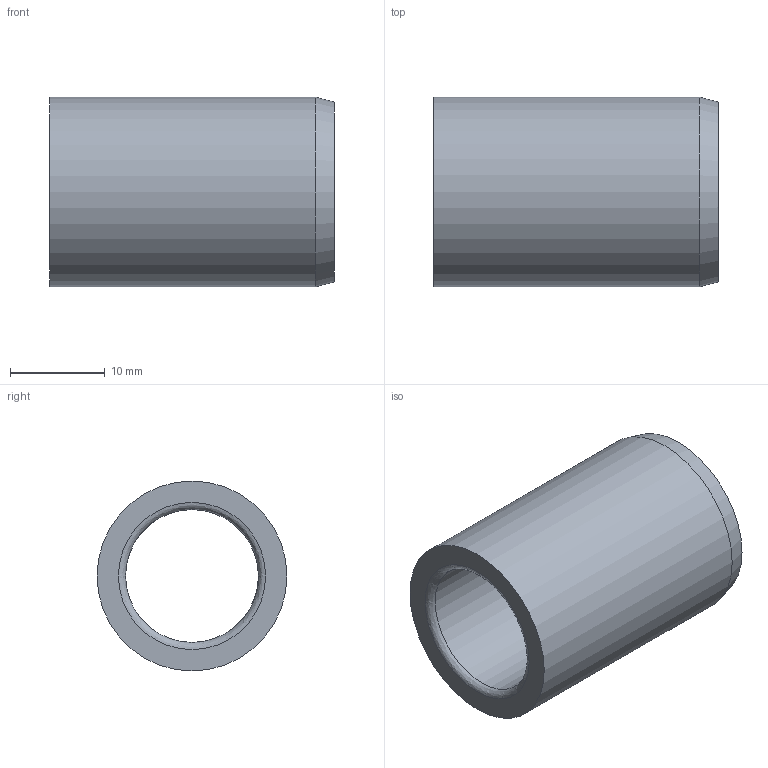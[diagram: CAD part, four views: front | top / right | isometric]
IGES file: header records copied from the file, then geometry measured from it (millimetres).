
Global section: file name: BG04.142030.ipt; native system: Autodesk Inventor 2021; preprocessor: unknown; author: SM; date: 20211217.163017; units: millimetre
Bounding box: 30 x 20 x 20 mm (x, y, z)
Volume: 4762.7 mm3; surface area: 3465.2 mm2
Topology: 1 solids, 1 shells, 7 faces, 18 edges, 13 vertices
Faces by surface type: revolution 3, plane 2, cylinder 1, cone 1
Full cylindrical faces by diameter (mm): 20 x1
